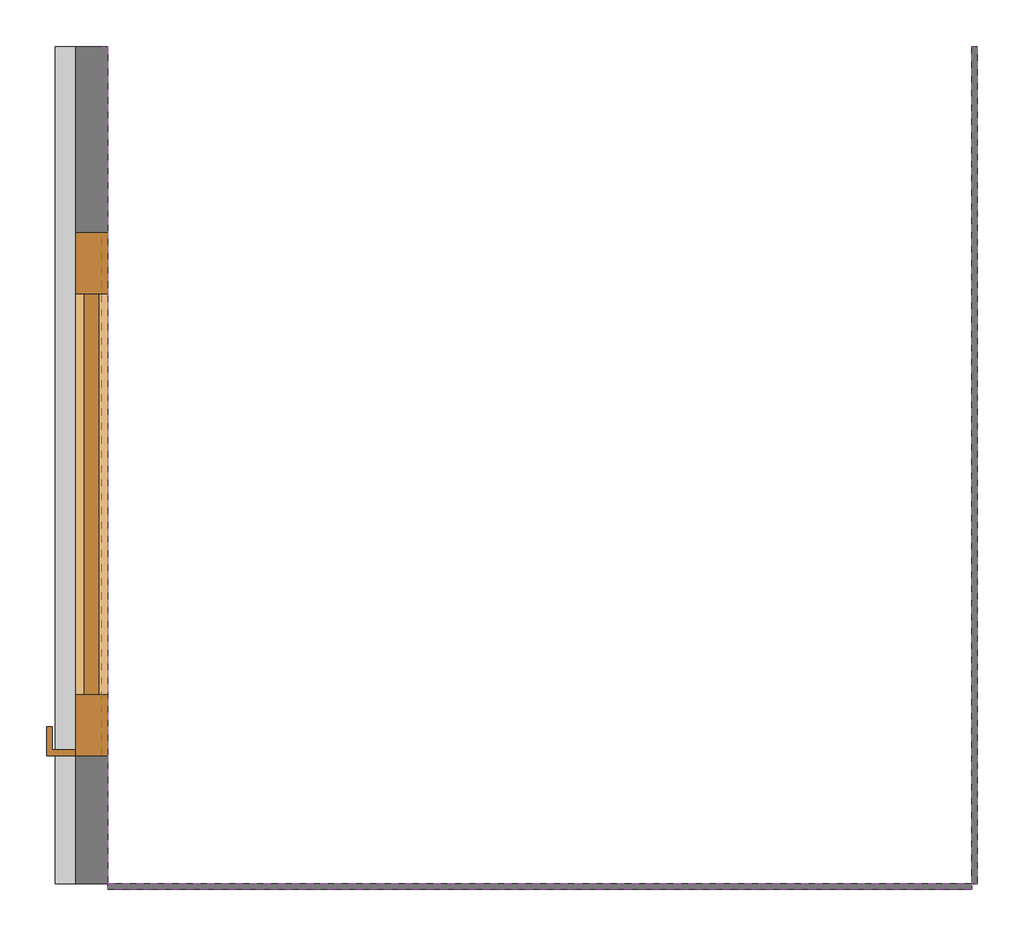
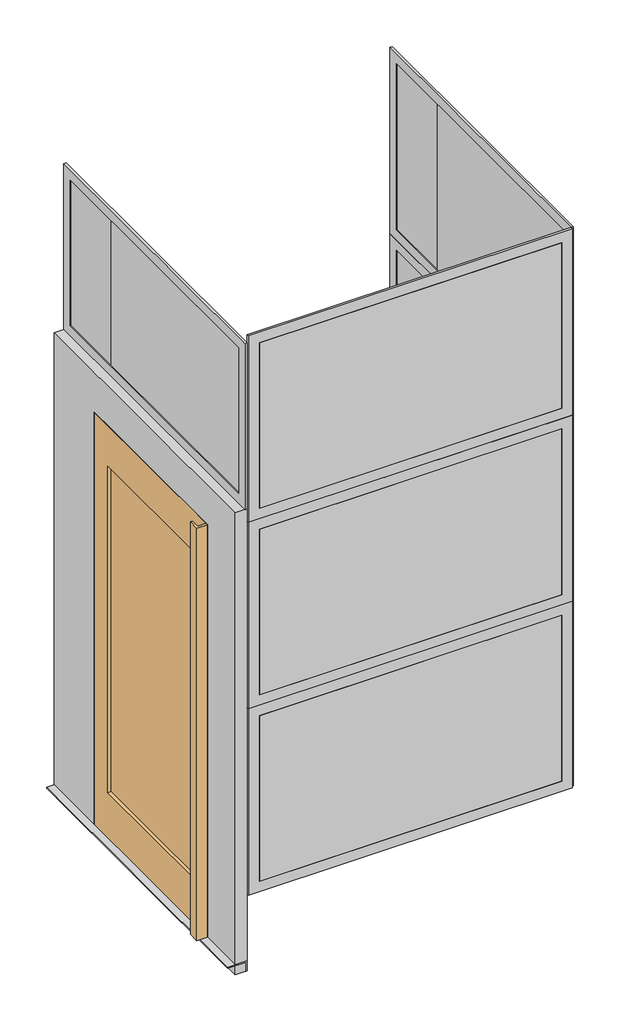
# One storey: 8 proxies, 1 door.
"""IFC4 building model written with IfcOpenShell, lengths in millimetres."""

import ifcopenshell
import ifcopenshell.guid

model = None  # the IFC model being written
_history = None  # IfcOwnerHistory: only IFC2X3 demands one
_inside = {}  # id of a spatial element -> (the spatial element, [elements in it])
_under = {}  # id of a project, library or spatial element -> (it, [spatial elements below it])
_declared = {}  # id of a project -> (the project, [libraries it declares])
_typed = {}  # id of a type object -> (the type object, [elements of that type])
_made_of = {}  # id of a material, layer set ... -> (it, [elements and type objects made of it])


def new_model(schema):
    """Start an empty IFC model of exactly this schema.

    Asked for "IFC4X3", IfcOpenShell would pick the latest addendum, in which some entities
    have other attributes; the version numbers below select the first issue.
    IFC2X3 requires an IfcOwnerHistory on every rooted entity: one is made here for all.
    """
    global model, _history
    if schema == "IFC4X3":
        model = ifcopenshell.file(schema_version=(4, 3, 0, 0))
    else:
        model = ifcopenshell.file(schema=schema)
    _inside.clear()
    _under.clear()
    _declared.clear()
    _typed.clear()
    _made_of.clear()
    _history = None
    if model.schema == "IFC2X3":
        org = make("IfcOrganization", Name="unknown")
        user = make(
            "IfcPersonAndOrganization",
            ThePerson=make("IfcPerson", FamilyName="unknown"),
            TheOrganization=org,
        )
        app = make(
            "IfcApplication",
            ApplicationDeveloper=org,
            Version="unknown",
            ApplicationFullName="unknown",
            ApplicationIdentifier="unknown",
        )
        _history = make(
            "IfcOwnerHistory",
            OwningUser=user,
            OwningApplication=app,
            ChangeAction="ADDED",
            CreationDate=0,
        )
    return model


def make(cls, **values):
    """One entity of the class cls with the attributes given. An attribute that is None is left unset."""
    return model.create_entity(
        cls, **{name: value for name, value in values.items() if value is not None}
    )


def rooted(cls, **values):
    """An entity with a GlobalId (a new one), such as an element, a storey or a relation."""
    return make(cls, GlobalId=ifcopenshell.guid.new(), OwnerHistory=_history, **values)


def si_unit(unit_type, name, prefix=None):
    """IfcSIUnit, for example si_unit("LENGTHUNIT", "METRE", prefix="MILLI")."""
    return make("IfcSIUnit", UnitType=unit_type, Prefix=prefix, Name=name)


def assignment(units):
    """IfcUnitAssignment: the units of a project."""
    return None if units is None else make("IfcUnitAssignment", Units=units)


def point(xyz):
    """IfcCartesianPoint."""
    return None if xyz is None else make("IfcCartesianPoint", Coordinates=xyz)


def direction(xyz):
    """IfcDirection."""
    return None if xyz is None else make("IfcDirection", DirectionRatios=xyz)


def frame(location, z_axis=None, x_axis=None):
    """IfcAxis2Placement3D, a coordinate frame: its origin and axes. An axis left out is left unset."""
    return make(
        "IfcAxis2Placement3D",
        Location=point(location),
        Axis=direction(z_axis),
        RefDirection=direction(x_axis),
    )


def origin():
    """The frame at (0, 0, 0) with its axes left unset."""
    return frame((0.0, 0.0, 0.0))


def place(relative_to, where):
    """IfcLocalPlacement: puts the frame where relative to a parent placement (None: the world)."""
    return make(
        "IfcLocalPlacement", PlacementRelTo=relative_to, RelativePlacement=where
    )


def context(
    kind, dimensions, precision=None, world=None, true_north=None, identifier=None
):
    """IfcGeometricRepresentationContext, for example the 3D "Model" context."""
    return make(
        "IfcGeometricRepresentationContext",
        ContextIdentifier=identifier,
        ContextType=kind,
        CoordinateSpaceDimension=dimensions,
        Precision=precision,
        WorldCoordinateSystem=world,
        TrueNorth=true_north,
    )


def project(units=None, contexts=None):
    """IfcProject with its units and contexts."""
    return rooted(
        "IfcProject",
        Name="project",
        RepresentationContexts=contexts,
        UnitsInContext=assignment(units),
    )


def spatial(cls, under=None, at=None, **own):
    """A site, building, storey or space (cls), placed at a placement, below another one or the project."""
    s = rooted(cls, ObjectPlacement=at, **own)
    if under is not None:
        _under.setdefault(under.id(), (under, []))[1].append(s)
    return s


def polyline(points):
    """IfcPolyline through the points."""
    return make("IfcPolyline", Points=[point(p) for p in points])


def outline(outer, holes=None, kind="AREA"):
    """IfcArbitraryClosedProfileDef: a profile drawn as a closed curve; with holes, ...WithVoids."""
    if holes is None:
        return make("IfcArbitraryClosedProfileDef", ProfileType=kind, OuterCurve=outer)
    return make(
        "IfcArbitraryProfileDefWithVoids",
        ProfileType=kind,
        OuterCurve=outer,
        InnerCurves=holes,
    )


def extrude(swept, where, along, depth):
    """IfcExtrudedAreaSolid: the profile swept, set in the frame where, extruded along a direction by depth."""
    return make(
        "IfcExtrudedAreaSolid",
        SweptArea=swept,
        Position=where,
        ExtrudedDirection=direction(along),
        Depth=depth,
    )


def shape(context_of_items, identifier, shape_type, items):
    """IfcShapeRepresentation: the items that make up one representation, for example the "Body"."""
    return make(
        "IfcShapeRepresentation",
        ContextOfItems=context_of_items,
        RepresentationIdentifier=identifier,
        RepresentationType=shape_type,
        Items=items,
    )


def source(mapping_origin, context_of_items, identifier, shape_type, items):
    """IfcRepresentationMap: a shape defined once, which mapped items show again and again."""
    return make(
        "IfcRepresentationMap",
        MappingOrigin=mapping_origin,
        MappedRepresentation=shape(context_of_items, identifier, shape_type, items),
    )


def transform(
    local_origin,
    x_axis=None,
    y_axis=None,
    z_axis=None,
    scale=None,
    scale2=None,
    scale3=None,
    uniform=True,
):
    """IfcCartesianTransformationOperator3D, or its non-uniform kind. x_axis, y_axis, z_axis: its Axis1, 2, 3."""
    if uniform:
        return make(
            "IfcCartesianTransformationOperator3D",
            Axis1=direction(x_axis),
            Axis2=direction(y_axis),
            LocalOrigin=point(local_origin),
            Scale=scale,
            Axis3=direction(z_axis),
        )
    return make(
        "IfcCartesianTransformationOperator3DnonUniform",
        Axis1=direction(x_axis),
        Axis2=direction(y_axis),
        LocalOrigin=point(local_origin),
        Scale=scale,
        Axis3=direction(z_axis),
        Scale2=scale2,
        Scale3=scale3,
    )


def mapped(mapping_source, mapping_target):
    """IfcMappedItem: shows the shape of a source again, moved by a transform."""
    return make(
        "IfcMappedItem", MappingSource=mapping_source, MappingTarget=mapping_target
    )


def made_of(thing, what):
    """Note that an element or type object is made of a material, layer set ...; save() writes the relation."""
    if what is not None:
        _made_of.setdefault(what.id(), (what, []))[1].append(thing)
    return thing


def element(
    cls,
    number,
    at=None,
    inside=None,
    cuts=None,
    type_object=None,
    material=None,
    context=None,
    identifier="Body",
    shape_type=None,
    held_by="IfcProductDefinitionShape",
    body=None,
    shapes=None,
    **own,
):
    """One element of the class cls, such as IfcWall. Its Tag is "e" and its number.

    at: its placement. inside: the storey or other place that contains it. cuts: it is an
    opening in that element (IfcRelVoidsElement). A single representation is given by context,
    identifier, shape_type and body (its items); several are given by shapes. held_by: the class
    of the entity that holds the representations. save() writes the other relations.
    """
    e = rooted(cls, Tag="e%d" % number, ObjectPlacement=at, **own)
    if body is not None:
        shapes = [shape(context, identifier, shape_type, body)]
    if shapes is not None:
        e.Representation = make(held_by, Representations=shapes)
    if inside is not None:
        _inside.setdefault(inside.id(), (inside, []))[1].append(e)
    if cuts is not None:
        rooted(
            "IfcRelVoidsElement", RelatingBuildingElement=cuts, RelatedOpeningElement=e
        )
    if type_object is not None:
        _typed.setdefault(type_object.id(), (type_object, []))[1].append(e)
    return made_of(e, material)


def aggregate(whole, parts):
    """IfcRelAggregates: a whole, such as a stair, and the parts it consists of."""
    return rooted("IfcRelAggregates", RelatingObject=whole, RelatedObjects=parts)


def save(model, path):
    """Write the relations noted so far, then the file.

    IfcRelAggregates (storeys below a building ...), IfcRelContainedInSpatialStructure (elements
    in a storey), IfcRelDefinesByType, IfcRelAssociatesMaterial and IfcRelDeclares: one each for
    every whole, place, type object, material and project.
    """
    for whole, parts in _under.values():
        aggregate(whole, parts)
    for where, things in _inside.values():
        rooted(
            "IfcRelContainedInSpatialStructure",
            RelatedElements=things,
            RelatingStructure=where,
        )
    for kind, things in _typed.values():
        rooted("IfcRelDefinesByType", RelatedObjects=things, RelatingType=kind)
    for what, things in _made_of.values():
        rooted("IfcRelAssociatesMaterial", RelatedObjects=things, RelatingMaterial=what)
    for by, libraries in _declared.values():
        rooted("IfcRelDeclares", RelatingContext=by, RelatedDefinitions=libraries)
    model.write(path)


def a_side_glass_panel_flexible_height_8747b029(model_context):
    return source(origin(), model_context, "Body", "SweptSolid", [
        extrude(outline(polyline([(1390.0, 13.0), (370.0, 13.0), (370.0, 17.0), (1390.0, 17.0), (1390.0, 13.0)])), frame((0.0, 0.0, 50.0), z_axis=(0.0, 0.0, 1.0), x_axis=(1.0, 0.0, 0.0)), (0.0, 0.0, 1.0), 804.0),
        extrude(outline(polyline([(370.0, 13.0), (50.0, 13.0), (50.0, 17.0), (370.0, 17.0), (370.0, 13.0)])), frame((0.0, 0.0, 50.0), z_axis=(0.0, 0.0, 1.0), x_axis=(1.0, 0.0, 0.0)), (0.0, 0.0, 1.0), 804.0),
        extrude(outline(polyline([(904.0, 0.0), (0.0, 0.0), (0.0, 1440.0), (904.0, 1440.0), (904.0, 0.0)]), holes=[polyline([(854.0, 50.0), (854.0, 1390.0), (50.0, 1390.0), (50.0, 50.0), (854.0, 50.0)])]), frame((0.0, 10.0, 0.0), z_axis=(0.0, 1.0, 0.0), x_axis=(0.0, 0.0, 1.0)), (0.0, 0.0, 1.0), 10.0),
    ])


def b_side_glass_panel_flexible_height_and_width_ffa260e1(model_context):
    return source(origin(), model_context, "Body", "SweptSolid", [
        extrude(outline(polyline([(904.0, 1487.0), (904.0, 0.0), (0.0, 0.0), (0.0, 1487.0), (904.0, 1487.0)]), holes=[polyline([(854.0, 50.0), (854.0, 1437.0), (50.0, 1437.0), (50.0, 50.0), (854.0, 50.0)])]), frame((0.0, -10.0, 0.0), z_axis=(0.0, 1.0, 0.0), x_axis=(0.0, 0.0, 1.0)), (0.0, 0.0, 1.0), 10.0),
        extrude(outline(polyline([(1437.0, -10.0), (50.0, -10.0), (50.0, 0.0), (1437.0, 0.0), (1437.0, -10.0)])), frame((0.0, 0.0, 50.0), z_axis=(0.0, 0.0, 1.0), x_axis=(1.0, 0.0, 0.0)), (0.0, 0.0, 1.0), 804.0),
    ])


def c_side_door_aluminium_1100_x_1467_left_hinged_ad710f9b(model_context):
    return source(origin(), model_context, "Body", "SweptSolid", [
        extrude(outline(polyline([(0.0, 0.0), (-5.0, 0.0), (-5.0, 45.0), (-90.0, 45.0), (-90.0, 50.0), (0.0, 50.0), (0.0, 0.0)])), frame((0.0, 0.0, 0.0), z_axis=(1.0, 0.0, 0.0), x_axis=(0.0, 1.0, 0.0)), (0.0, 0.0, 1.0), 1440.0),
        extrude(outline(polyline([(2240.0, 0.0), (0.0, 0.0), (0.0, 1440.0), (2240.0, 1440.0), (2240.0, 0.0)]), holes=[polyline([(2050.0, 320.0), (2050.0, 1220.0), (50.0, 1220.0), (50.0, 320.0), (2050.0, 320.0)])]), frame((0.0, -55.0, 0.0), z_axis=(0.0, 1.0, 0.0), x_axis=(0.0, 0.0, 1.0)), (0.0, 0.0, 1.0), 55.0),
    ])


def c_side_glass_panel_flexible_height_and_width_e43f4e54(model_context):
    return source(origin(), model_context, "Body", "SweptSolid", [
        extrude(outline(polyline([(1390.0, 13.0), (370.0, 13.0), (370.0, 17.0), (1390.0, 17.0), (1390.0, 13.0)])), frame((0.0, 0.0, 50.0), z_axis=(0.0, 0.0, 1.0), x_axis=(1.0, 0.0, 0.0)), (0.0, 0.0, 1.0), 705.0),
        extrude(outline(polyline([(370.0, 13.0), (50.0, 13.0), (50.0, 17.0), (370.0, 17.0), (370.0, 13.0)])), frame((0.0, 0.0, 50.0), z_axis=(0.0, 0.0, 1.0), x_axis=(1.0, 0.0, 0.0)), (0.0, 0.0, 1.0), 705.0),
        extrude(outline(polyline([(805.0, 0.0), (0.0, 0.0), (0.0, 1440.0), (805.0, 1440.0), (805.0, 0.0)]), holes=[polyline([(755.0, 50.0), (755.0, 1390.0), (50.0, 1390.0), (50.0, 50.0), (755.0, 50.0)])]), frame((0.0, 10.0, 0.0), z_axis=(0.0, 1.0, 0.0), x_axis=(0.0, 0.0, 1.0)), (0.0, 0.0, 1.0), 10.0),
    ])


def aluminium_door_single_glass_left_hinged_bedaa4f7(model_context):
    return source(origin(), model_context, "Body", "SweptSolid", [
        extrude(outline(polyline([(2050.0, 1013.0), (2050.0, 113.0), (50.0, 113.0), (50.0, 1013.0), (2050.0, 1013.0)]), holes=[polyline([(1850.0, 908.0), (269.0, 908.0), (269.0, 218.0), (1850.0, 218.0), (1850.0, 908.0)])]), frame((0.0, -55.0, 0.0), z_axis=(0.0, 1.0, 0.0), x_axis=(0.0, 0.0, 1.0)), (0.0, 0.0, 1.0), 55.0),
        extrude(outline(polyline([(1013.0, -105.0), (963.0, -105.0), (963.0, -95.0), (1003.0, -95.0), (1003.0, -55.0), (1013.0, -55.0), (1013.0, -105.0)])), frame((0.0, 0.0, 50.0), z_axis=(0.0, 0.0, 1.0), x_axis=(1.0, 0.0, 0.0)), (0.0, 0.0, 1.0), 2000.0),
        extrude(outline(polyline([(218.0, -15.0), (908.0, -15.0), (908.0, -40.0), (218.0, -40.0), (218.0, -15.0)])), frame((0.0, 0.0, 269.0), z_axis=(0.0, 0.0, 1.0), x_axis=(1.0, 0.0, 0.0)), (0.0, 0.0, 1.0), 1581.0),
    ])


model = new_model("IFC4")

# Units and contexts
model_context = context("Model", 3, world=origin())
ifc_project = project(units=[si_unit("LENGTHUNIT", "METRE", prefix="MILLI")], contexts=[model_context])

# Site, building, storey
site = spatial("IfcSite", under=ifc_project)
building = spatial("IfcBuilding", under=site)
storey = spatial("IfcBuildingStorey", under=building, Name="Cibes - plan 2", Elevation=5991.0118165)

# Proxies
placement = place(None, origin())
a_side_glass_panel_flexible_height_shape = a_side_glass_panel_flexible_height_8747b029(model_context)
element("IfcBuildingElementProxy", 1, Name="A-side_Glass Panel : Flexible Height", ObjectType="A-side_Glass Panel : Flexible Height", at=placement, inside=storey, context=model_context, shape_type="MappedRepresentation", body=[
    mapped(a_side_glass_panel_flexible_height_shape, transform((24984.9520027, 30099.6913541, 6319.0118194), x_axis=(0.0, -1.0000000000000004, 0.0), y_axis=(1.0000000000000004, 0.0, 0.0), z_axis=(0.0, 0.0, 1.0))),
])
element("IfcBuildingElementProxy", 2, Name="A-side_Glass Panel : Flexible Height", ObjectType="A-side_Glass Panel : Flexible Height", at=placement, inside=storey, context=model_context, shape_type="MappedRepresentation", body=[
    mapped(a_side_glass_panel_flexible_height_shape, transform((24984.9520027, 30099.6913541, 7223.0118194), x_axis=(0.0, -1.0000000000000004, 0.0), y_axis=(1.0000000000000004, 0.0, 0.0), z_axis=(0.0, 0.0, 1.0))),
])
element("IfcBuildingElementProxy", 3, Name="A-side_Glass Panel : Flexible Height", ObjectType="A-side_Glass Panel : Flexible Height", at=placement, inside=storey, context=model_context, shape_type="MappedRepresentation", body=[
    mapped(a_side_glass_panel_flexible_height_shape, transform((24984.9520027, 30099.6913541, 8127.0118194), x_axis=(0.0, -1.0000000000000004, 0.0), y_axis=(1.0000000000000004, 0.0, 0.0), z_axis=(0.0, 0.0, 1.0))),
])
b_side_glass_panel_flexible_height_and_width_shape = b_side_glass_panel_flexible_height_and_width_ffa260e1(model_context)
element("IfcBuildingElementProxy", 4, Name="B-side_Glass Panel : Flexible Height and Width", ObjectType="B-side_Glass Panel : Flexible Height and Width", at=placement, inside=storey, context=model_context, shape_type="MappedRepresentation", body=[
    mapped(b_side_glass_panel_flexible_height_and_width_shape, transform((23507.9519947, 28659.6913539, 6319.0118194), x_axis=(1.0, 0.0, 0.0), y_axis=(0.0, 1.0, 0.0), z_axis=(0.0, 0.0, 1.0))),
])
element("IfcBuildingElementProxy", 5, Name="B-side_Glass Panel : Flexible Height and Width", ObjectType="B-side_Glass Panel : Flexible Height and Width", at=placement, inside=storey, context=model_context, shape_type="MappedRepresentation", body=[
    mapped(b_side_glass_panel_flexible_height_and_width_shape, transform((23507.9519947, 28659.6913539, 7223.0118194), x_axis=(1.0, 0.0, 0.0), y_axis=(0.0, 1.0, 0.0), z_axis=(0.0, 0.0, 1.0))),
])
element("IfcBuildingElementProxy", 6, Name="B-side_Glass Panel : Flexible Height and Width", ObjectType="B-side_Glass Panel : Flexible Height and Width", at=placement, inside=storey, context=model_context, shape_type="MappedRepresentation", body=[
    mapped(b_side_glass_panel_flexible_height_and_width_shape, transform((23507.9519947, 28659.6913539, 8127.0118194), x_axis=(1.0, 0.0, 0.0), y_axis=(0.0, 1.0, 0.0), z_axis=(0.0, 0.0, 1.0))),
])
c_side_door_aluminium_1100_x_1467_left_hinged_shape = c_side_door_aluminium_1100_x_1467_left_hinged_ad710f9b(model_context)
element("IfcBuildingElementProxy", 7, Name="C-side_Door_aluminium : 1100 x 1467 - Left hinged", ObjectType="C-side_Door_aluminium : 1100 x 1467 - Left hinged", at=placement, inside=storey, context=model_context, shape_type="MappedRepresentation", body=[
    mapped(c_side_door_aluminium_1100_x_1467_left_hinged_shape, transform((23507.9520026, 30099.6913539, 5946.0118165), x_axis=(0.0, -1.0, 0.0), y_axis=(1.0, 0.0, 0.0), z_axis=(0.0, 0.0, 1.0))),
])
c_side_glass_panel_flexible_height_and_width_shape = c_side_glass_panel_flexible_height_and_width_e43f4e54(model_context)
element("IfcBuildingElementProxy", 8, Name="C-side_Glass Panel : Flexible Height and Width", ObjectType="C-side_Glass Panel : Flexible Height and Width", at=placement, inside=storey, context=model_context, shape_type="MappedRepresentation", body=[
    mapped(c_side_glass_panel_flexible_height_and_width_shape, transform((23487.9520026, 30099.6913452, 8186.0118165), x_axis=(0.0, -1.0000000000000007, 0.0), y_axis=(1.0000000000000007, 0.0, 0.0), z_axis=(0.0, 0.0, 1.0))),
])

# Door
aluminium_door_single_glass_left_hinged_shape = aluminium_door_single_glass_left_hinged_bedaa4f7(model_context)
element("IfcDoor", 9, ObjectType="Aluminium Door_single_glass : Left hinged", at=placement, inside=storey, context=model_context, shape_type="MappedRepresentation", body=[
    mapped(aluminium_door_single_glass_left_hinged_shape, transform((23507.9520026, 29892.6913539, 5946.0118165), x_axis=(0.0, -1.0, 0.0), y_axis=(1.0, 0.0, 0.0), z_axis=(0.0, 0.0, 1.0))),
])

save(model, "model.ifc")
